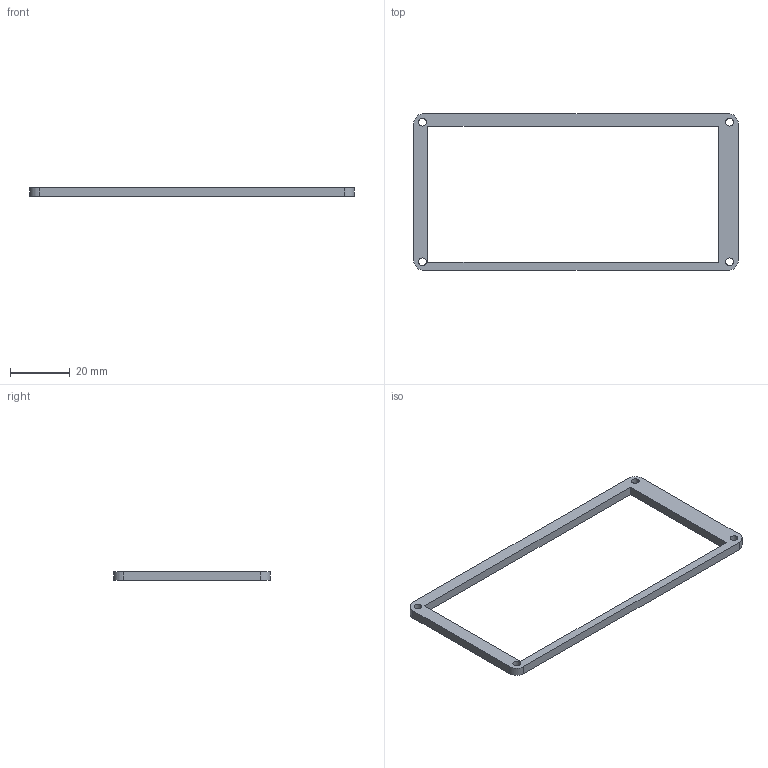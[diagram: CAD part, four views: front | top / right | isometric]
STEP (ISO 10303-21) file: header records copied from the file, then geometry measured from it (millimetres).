
FILE_DESCRIPTION(/* description */ (''),/* implementation_level */ '2;1');
FILE_NAME(/* name */ 'Exploiteers_Hacker_Pager_V107_window_frame_step.stp',/* time_stamp */ '2026-06-11T15:12:58-04:00',/* author */ 'SGX',/* organization */ 'Exploiteers',/* preprocessor_version */ 'ST-DEVELOPER v20.1',/* originating_system */ 'Autodesk Translation Framework v15.8.0.0',/* authorisation */ '');
FILE_SCHEMA (('AUTOMOTIVE_DESIGN { 1 0 10303 214 3 1 1 }'));
Length unit declared in the file: millimetre
Products named in the file (1): window_frame
Bounding box: 108.8 x 52.62 x 3 mm (x, y, z)
Volume: 3744 mm3; surface area: 4403.6 mm2
Topology: 1 solids, 1 shells, 18 faces, 48 edges, 32 vertices
Faces by surface type: plane 10, cylinder 8
Full cylindrical faces by diameter (mm): 2.6 x4
Entity records: 621 total; most frequent: DIRECTION 102, CARTESIAN_POINT 99, ORIENTED_EDGE 96, EDGE_CURVE 48, AXIS2_PLACEMENT_3D 35, LINE 32, VECTOR 32, VERTEX_POINT 32
